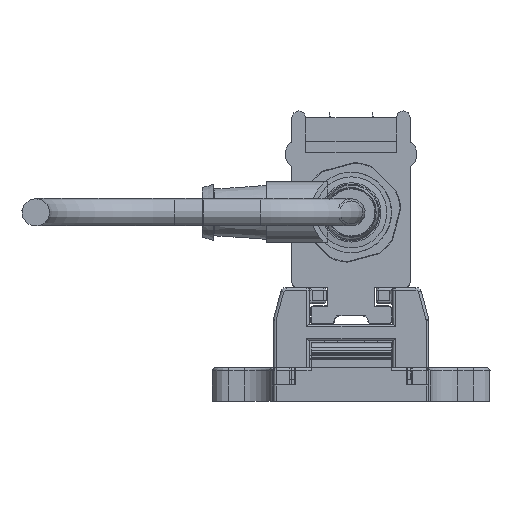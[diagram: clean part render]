
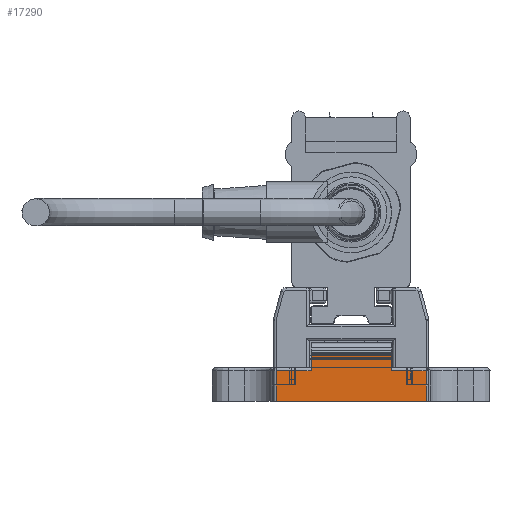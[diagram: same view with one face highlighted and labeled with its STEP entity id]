
A CAD part, left-side view. The second image highlights one B-rep face of the part: STEP entity #17290.
In plain terms, the highlighted planar face has unit normal (-1, 0, 0).
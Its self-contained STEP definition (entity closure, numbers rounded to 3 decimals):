
#17290=ADVANCED_FACE('', (#17300), #17310, .T.);
#129250=AXIS2_PLACEMENT_3D('Ax2Pl3d', #129260, #129270, #129280);
#474170=CARTESIAN_POINT('', (2084.679,-183.662,62.275)
);
#474180=CARTESIAN_POINT('', (2084.679,-156.666,62.275))
;
#474190=CARTESIAN_POINT('', (2084.679,-156.666,62.275))
;
#476170=CARTESIAN_POINT('', (2084.679,-162.964,67.775)
);
#476180=CARTESIAN_POINT('', (2084.679,-162.964,67.775)
);
#476190=CARTESIAN_POINT('', (2084.679,-162.964,70.875)
);
#476230=CARTESIAN_POINT('', (2084.679,-177.364,70.875)
);
#476240=CARTESIAN_POINT('', (2084.679,-177.364,70.875)
);
#476250=CARTESIAN_POINT('', (2084.679,-177.364,67.775)
);
#476360=CARTESIAN_POINT('', (2084.679,-162.964,67.775)
);
#476370=CARTESIAN_POINT('', (2084.679,-156.666,67.775))
;
#476380=CARTESIAN_POINT('', (2084.679,-183.662,67.775)
);
#476390=CARTESIAN_POINT('', (2084.679,-183.662,67.775)
);
#476670=CARTESIAN_POINT('', (2084.679,-183.662,
67.775));
#129260=CARTESIAN_POINT('HicPkt', (2084.679,-162.964,
70.875));
#476680=CARTESIAN_POINT('', (2084.679,-177.364,70.875)
);
#476690=CARTESIAN_POINT('', (2084.679,-156.666,62.275))
;
#763190=DIRECTION('', (0.,1.,0.));
#764040=DIRECTION('', (0.,0.,-1.));
#764060=DIRECTION('', (0.,0.,1.));
#764110=DIRECTION('', (0.,-1.,0.));
#764120=DIRECTION('', (0.,-1.,0.));
#764260=DIRECTION('', (0.,0.,1.));
#129270=DIRECTION('Axis', (-1.,0.,
0.));
#129280=DIRECTION('RefDirection', (0.,
0.,-1.));
#764270=DIRECTION('', (0.,-1.,0.));
#764280=DIRECTION('', (0.,0.,-1.));
#819210=EDGE_CURVE('', #819200, #819220, #819230, .T.);
#822470=EDGE_CURVE('', #822480, #822460, #822490, .T.);
#822570=EDGE_CURVE('', #822580, #822560, #822590, .T.);
#822780=EDGE_CURVE('', #822790, #822460, #822800, .T.);
#822820=EDGE_CURVE('', #822580, #822830, #822840, .T.);
#823360=EDGE_CURVE('', #819200, #822830, #823370, .T.);
#823380=EDGE_CURVE('', #822480, #822560, #823390, .T.);
#823400=EDGE_CURVE('', #822790, #819220, #823410, .T.);
#978280=EDGE_LOOP('Edge_loop', (#978290,#978300,#978310,#978320,
#978330,#978340,#978350,#978360));
#17300=FACE_OUTER_BOUND('Face_outer_bound', #978280, .T.);
#819230=LINE('Line', #474180, #1125380);
#822490=LINE('Line', #476180, #1126230);
#822590=LINE('Line', #476240, #1126250);
#822800=LINE('Line', #476360, #1126300);
#822840=LINE('Line', #476380, #1126310);
#823370=LINE('Line', #476670, #1126450);
#823390=LINE('Line', #476680, #1126460);
#823410=LINE('Line', #476690, #1126470);
#978290=ORIENTED_EDGE('', *, *, #823380, .F.);
#978300=ORIENTED_EDGE('', *, *, #822470, .T.);
#978310=ORIENTED_EDGE('', *, *, #822780, .F.);
#978320=ORIENTED_EDGE('', *, *, #823400, .T.);
#978330=ORIENTED_EDGE('', *, *, #819210, .F.);
#978340=ORIENTED_EDGE('', *, *, #823360, .T.);
#978350=ORIENTED_EDGE('', *, *, #822820, .F.);
#978360=ORIENTED_EDGE('', *, *, #822570, .T.);
#17310=PLANE('Plane', #129250);
#1125380=VECTOR('', #763190, 26.996);
#1126230=VECTOR('', #764040, 3.1);
#1126250=VECTOR('', #764060, 3.1);
#1126300=VECTOR('', #764110, 6.298);
#1126310=VECTOR('', #764120, 6.298);
#1126450=VECTOR('', #764260, 5.5);
#1126460=VECTOR('', #764270, 14.4);
#1126470=VECTOR('', #764280, 5.5);
#819200=VERTEX_POINT('', #474170);
#819220=VERTEX_POINT('', #474190);
#822460=VERTEX_POINT('', #476170);
#822480=VERTEX_POINT('', #476190);
#822560=VERTEX_POINT('', #476230);
#822580=VERTEX_POINT('', #476250);
#822790=VERTEX_POINT('', #476370);
#822830=VERTEX_POINT('', #476390);
